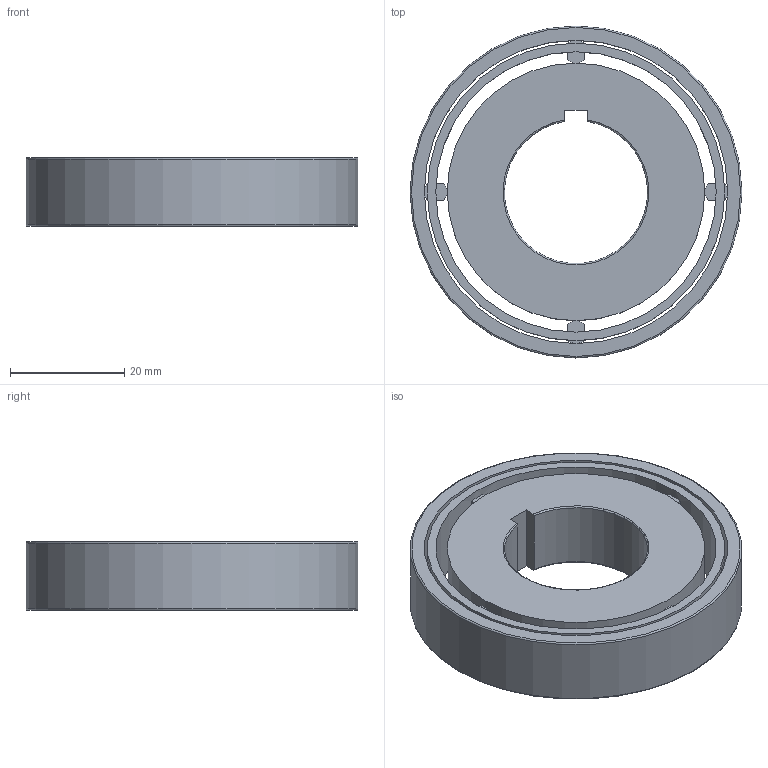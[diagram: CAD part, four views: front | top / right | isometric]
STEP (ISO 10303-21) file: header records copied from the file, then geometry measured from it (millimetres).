
FILE_DESCRIPTION(/* description */ (''),/* implementation_level */ '2;1');
FILE_NAME(/* name */ '300637 FRN 453 Z.stp',/* time_stamp */ '2016-11-03T17:17:20+01:00',/* author */ (''),/* organization */ (''),/* preprocessor_version */ 'ST-DEVELOPER v15',/* originating_system */ 'SIEMENS PLM Software NX 8.5',/* authorisation */ '');
FILE_SCHEMA (('CONFIG_CONTROL_DESIGN'));
Length unit declared in the file: millimetre
Products named in the file (2): ATE0000080_01; ATE0000085_01
Assembly tree (1 placements, depth 2):
  ATE0000085_01
    ATE0000080_01
Bounding box: 58 x 58 x 12 mm (x, y, z)
Volume: 20651.9 mm3; surface area: 14495.6 mm2
Topology: 3 solids, 3 shells, 63 faces, 145 edges, 96 vertices
Faces by surface type: plane 43, cylinder 16, torus 4
Full cylindrical faces by diameter (mm): 45 x1, 49 x1, 51 x1, 52 x2, 53 x1, 58 x1
Entity records: 1979 total; most frequent: CARTESIAN_POINT 365, DIRECTION 308, ORIENTED_EDGE 260, EDGE_CURVE 130, AXIS2_PLACEMENT_3D 117, VERTEX_POINT 92, EDGE_LOOP 88, LINE 74
